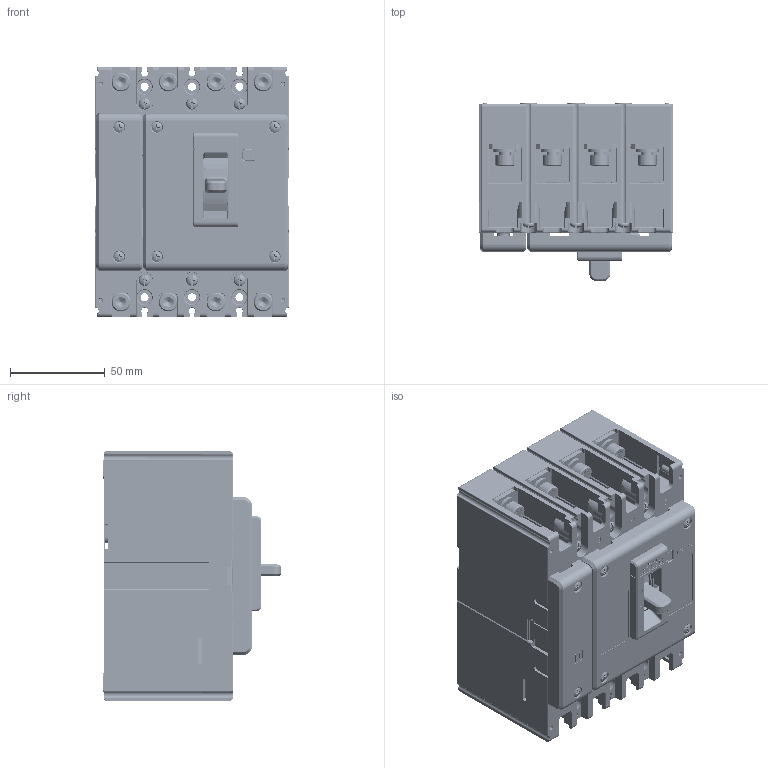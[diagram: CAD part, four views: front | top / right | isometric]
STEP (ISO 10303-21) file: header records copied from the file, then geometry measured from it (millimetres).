
FILE_DESCRIPTION((''),'2;1');
FILE_NAME('2253055500_ASM_SW0001','2025-02-17T',('youjie.zhu'),(''),'PRO/ENGINEER BY PARAMETRIC TECHNOLOGY CORPORATION, 2015440','PRO/ENGINEER BY PARAMETRIC TECHNOLOGY CORPORATION, 2015440','');
FILE_SCHEMA(('CONFIG_CONTROL_DESIGN'));
Products named in the file (1): 2253055500_ASM_SW0001
Bounding box: 102 x 93.99 x 132 mm (x, y, z)
Volume: 355234.7 mm3; surface area: 256115.3 mm2
Topology: 10 solids, 10 shells, 9127 faces, 24463 edges, 15124 vertices
Faces by surface type: plane 4146, cylinder 2985, torus 614, extrusion 411, cone 391, sphere 379, bspline 189, revolution 12
Entity records: 304160 total; most frequent: CARTESIAN_POINT 77860, ORIENTED_EDGE 48088, DIRECTION 46694, EDGE_CURVE 24044, AXIS2_PLACEMENT_3D 15985, VERTEX_POINT 15124, VECTOR 14712, LINE 14301
